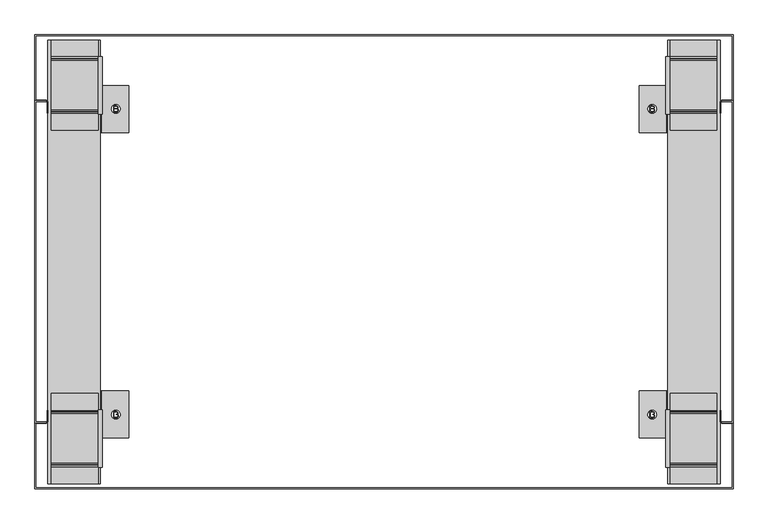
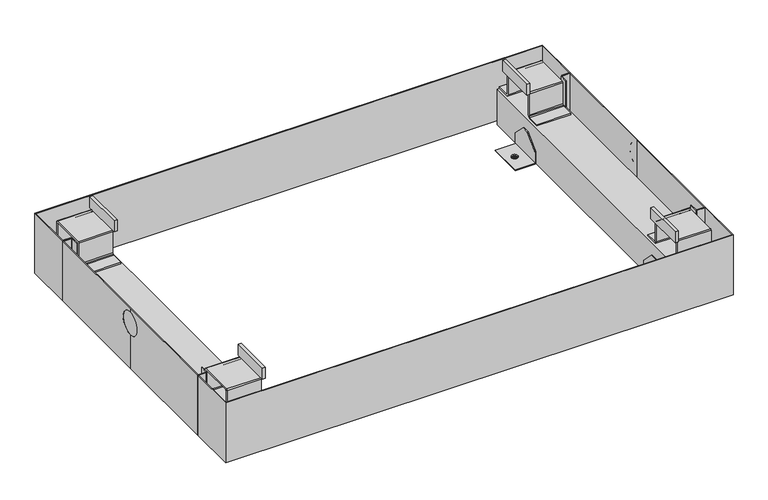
"""IFC4 building model written with IfcOpenShell, lengths in millimetres: proxy geometry, 11783010_EU_APWM026_IG : 59510026_EU_11783010_APWM026_IG."""

from ifc_helpers import new_model, si_unit, point, frame, frame_2d, origin, origin_with_axes, place, context, project, spatial, polyline, circle_curve, trimmed, segment, composite_curve, outline, extrude, source, transform, mapped, element, save
from ifc_brep_helpers import plane_surface, revolved_surface, advanced_brep


def specialty_equipment_adf1b3c8(model_context):
    return source(origin(), model_context, "Body", "SolidModel", [
        advanced_brep(
        [(-668.5, -126.5, 171.8001281), (-668.5, -435.0, 171.8001281), (-668.5, -743.5, 171.8001281), (-646.6000023, -743.5, 171.8001281), (-646.6000023, -742.0, 171.8001281), (-667.0, -742.0, 171.8001281), (-667.0, -435.0, 171.8001281), (-667.0, -128.0, 171.8001281), (-646.6000023, -128.0, 171.8001281), (-646.6000023, -126.5, 171.8001281), (-668.5, -126.5, 5.0069558), (-646.6000023, -126.5, 5.0069558), (-646.6000023, -128.0, 5.0069558), (-667.0, -128.0, 5.0069558), (-667.0, -435.0, 5.0069558), (-667.0, -742.0, 5.0069558), (-646.6000023, -742.0, 5.0069558), (-646.6000023, -743.5, 5.0069558), (-668.5, -743.5, 5.0069558), (-668.5, -435.0, 5.0069558), (-668.5, -435.0, 97.7016111), (-668.5, -402.9849473, 129.7166638), (-668.5, -435.0, 161.7317164), (-668.5, -467.0150527, 129.7166638), (-667.4619558, -467.0150527, 129.7166638), (-667.4619558, -402.9849473, 129.7166638)],
        [
            (0, 1),
            (1, 2),
            (2, 3),
            (3, 4),
            (4, 5),
            (5, 6),
            (6, 7),
            (7, 8),
            (8, 9),
            (9, 0),
            (10, 11),
            (11, 12),
            (12, 13),
            (13, 14),
            (14, 15),
            (15, 16),
            (16, 17),
            (17, 18),
            (18, 19),
            (19, 10),
            (0, 10),
            (19, 20),
            (20, 21, circle_curve(frame((-668.5, -435.0, 129.7166638), z_axis=(1.0, 0.0, 0.0), x_axis=(0.0, 1.0, 0.0)), 32.0150527)),
            (21, 22, circle_curve(frame((-668.5, -435.0, 129.7166638), z_axis=(1.0, 0.0, 0.0), x_axis=(0.0, 1.0, 0.0)), 32.0150527)),
            (22, 1),
            (22, 23, circle_curve(frame((-668.5, -435.0, 129.7166638), z_axis=(1.0, 0.0, 0.0), x_axis=(0.0, 1.0, 0.0)), 32.0150527)),
            (23, 20, circle_curve(frame((-668.5, -435.0, 129.7166638), z_axis=(1.0, 0.0, 0.0), x_axis=(0.0, 1.0, 0.0)), 32.0150527)),
            (18, 2),
            (17, 3),
            (16, 4),
            (15, 5),
            (14, 6),
            (13, 7),
            (12, 8),
            (11, 9),
            (24, 25, circle_curve(frame((-667.4619558, -435.0, 129.7166638), z_axis=(-1.0, 0.0, 0.0), x_axis=(0.0, 1.0, 0.0)), 32.0150527)),
            (25, 24, circle_curve(frame((-667.4619558, -435.0, 129.7166638), z_axis=(-1.0, 0.0, 0.0), x_axis=(0.0, 1.0, 0.0)), 32.0150527)),
            (25, 21),
            (23, 24),
        ],
        [
            plane_surface(frame((-668.5, -126.5, 171.8001281), z_axis=(0.0, 0.0, 1.0), x_axis=(0.0, -1.0, 0.0))),
            plane_surface(frame((-668.5, -126.5, 5.0069558), z_axis=(0.0, 0.0, -1.0), x_axis=(0.0, 1.0, 0.0))),
            plane_surface(frame((-668.5, -126.5, 171.8001281), z_axis=(-1.0, 0.0, 0.0), x_axis=(0.0, 0.0, -1.0))),
            plane_surface(frame((-668.5, -435.0, 171.8001281), z_axis=(-1.0, 0.0, 0.0), x_axis=(0.0, 0.0, -1.0))),
            plane_surface(frame((-668.5, -743.5, 171.8001281), z_axis=(0.0, -1.0, 0.0), x_axis=(0.0, 0.0, -1.0))),
            plane_surface(frame((-646.6000023, -743.5, 171.8001281), z_axis=(1.0, 0.0, 0.0), x_axis=(0.0, 0.0, -1.0))),
            plane_surface(frame((-646.6000023, -742.0, 171.8001281), z_axis=(0.0, 1.0, 0.0), x_axis=(0.0, 0.0, -1.0))),
            plane_surface(frame((-667.0, -742.0, 171.8001281), z_axis=(1.0, 0.0, 0.0), x_axis=(0.0, 0.0, -1.0))),
            plane_surface(frame((-667.0, -435.0, 171.8001281), z_axis=(1.0, 0.0, 0.0), x_axis=(0.0, 0.0, -1.0))),
            plane_surface(frame((-667.0, -128.0, 171.8001281), z_axis=(0.0, -1.0, 0.0), x_axis=(0.0, 0.0, -1.0))),
            plane_surface(frame((-646.6000023, -128.0, 171.8001281), z_axis=(1.0, 0.0, 0.0), x_axis=(0.0, 0.0, -1.0))),
            plane_surface(frame((-646.6000023, -126.5, 171.8001281), z_axis=(0.0, 1.0, 0.0), x_axis=(0.0, 0.0, -1.0))),
            plane_surface(frame((-667.4619558, -402.9849473, 129.7166638), z_axis=(-1.0, 0.0, 0.0), x_axis=(0.0, 0.0, 1.0))),
            revolved_surface(polyline([(-668.5, -402.9849473, 129.7166638), (-667.4619558, -402.9849473, 129.7166638)]), (-667.4619558, -435.0, 129.7166638), (-1.0, 0.0, 0.0)),
        ],
        [
            (0, [[1, 2, 3, 4, 5, 6, 7, 8, 9, 10]]),
            (1, [[11, 12, 13, 14, 15, 16, 17, 18, 19, 20]]),
            (2, [[-1, 21, -20, 22, 23, 24, 25]]),
            (3, [[-2, -25, 26, 27, -22, -19, 28]]),
            (4, [[-3, -28, -18, 29]]),
            (5, [[-4, -29, -17, 30]]),
            (6, [[-5, -30, -16, 31]]),
            (7, [[-6, -31, -15, 32]]),
            (8, [[-7, -32, -14, 33]]),
            (9, [[-8, -33, -13, 34]]),
            (10, [[-9, -34, -12, 35]]),
            (11, [[-10, -35, -11, -21]]),
            (12, [[36, 37]]),
            (13, [[-37, 38, -23, -27, 39]]),
            (13, [[-36, -39, -26, -24, -38]]),
        ],
    ),
        advanced_brep(
        [(668.5, -126.5, 171.8001281), (646.6000023, -126.5, 171.8001281), (646.6000023, -128.0, 171.8001281), (667.0, -128.0, 171.8001281), (667.0, -435.0, 171.8001281), (667.0, -742.0, 171.8001281), (646.6000023, -742.0, 171.8001281), (646.6000023, -743.5, 171.8001281), (668.5, -743.5, 171.8001281), (668.5, -435.0, 171.8001281), (668.5, -126.5, 5.0069558), (668.5, -435.0, 5.0069558), (668.5, -743.5, 5.0069558), (646.6000023, -743.5, 5.0069558), (646.6000023, -742.0, 5.0069558), (667.0, -742.0, 5.0069558), (667.0, -435.0, 5.0069558), (667.0, -128.0, 5.0069558), (646.6000023, -128.0, 5.0069558), (646.6000023, -126.5, 5.0069558), (668.5, -435.0, 161.7317164), (668.5, -402.9849473, 129.7166638), (668.5, -435.0, 97.7016111), (668.5, -467.0150527, 129.7166638), (667.4619558, -467.0150527, 129.7166638), (667.4619558, -402.9849473, 129.7166638)],
        [
            (0, 1),
            (1, 2),
            (2, 3),
            (3, 4),
            (4, 5),
            (5, 6),
            (6, 7),
            (7, 8),
            (8, 9),
            (9, 0),
            (10, 11),
            (11, 12),
            (12, 13),
            (13, 14),
            (14, 15),
            (15, 16),
            (16, 17),
            (17, 18),
            (18, 19),
            (19, 10),
            (9, 20),
            (20, 21, circle_curve(frame((668.5, -435.0, 129.7166638), z_axis=(-1.0, 0.0, 0.0), x_axis=(0.0, 1.0, 0.0)), 32.0150527)),
            (21, 22, circle_curve(frame((668.5, -435.0, 129.7166638), z_axis=(-1.0, 0.0, 0.0), x_axis=(0.0, 1.0, 0.0)), 32.0150527)),
            (22, 11),
            (10, 0),
            (8, 12),
            (22, 23, circle_curve(frame((668.5, -435.0, 129.7166638), z_axis=(-1.0, 0.0, 0.0), x_axis=(0.0, 1.0, 0.0)), 32.0150527)),
            (23, 20, circle_curve(frame((668.5, -435.0, 129.7166638), z_axis=(-1.0, 0.0, 0.0), x_axis=(0.0, 1.0, 0.0)), 32.0150527)),
            (7, 13),
            (6, 14),
            (5, 15),
            (4, 16),
            (3, 17),
            (2, 18),
            (1, 19),
            (24, 25, circle_curve(frame((667.4619558, -435.0, 129.7166638), z_axis=(1.0, 0.0, 0.0), x_axis=(0.0, 1.0, 0.0)), 32.0150527)),
            (25, 24, circle_curve(frame((667.4619558, -435.0, 129.7166638), z_axis=(1.0, 0.0, 0.0), x_axis=(0.0, 1.0, 0.0)), 32.0150527)),
            (24, 23),
            (21, 25),
        ],
        [
            plane_surface(frame((646.6000023, -126.5, 171.8001281), z_axis=(0.0, 0.0, 1.0), x_axis=(-1.0, 0.0, 0.0))),
            plane_surface(frame((646.6000023, -126.5, 5.0069558), z_axis=(0.0, 0.0, -1.0), x_axis=(1.0, 0.0, 0.0))),
            plane_surface(frame((668.5, -435.0, 171.8001281), z_axis=(1.0, 0.0, 0.0), x_axis=(0.0, 0.0, -1.0))),
            plane_surface(frame((668.5, -743.5, 171.8001281), z_axis=(1.0, 0.0, 0.0), x_axis=(0.0, 0.0, -1.0))),
            plane_surface(frame((646.6000023, -743.5, 171.8001281), z_axis=(0.0, -1.0, 0.0), x_axis=(0.0, 0.0, -1.0))),
            plane_surface(frame((646.6000023, -742.0, 171.8001281), z_axis=(-1.0, 0.0, 0.0), x_axis=(0.0, 0.0, -1.0))),
            plane_surface(frame((667.0, -742.0, 171.8001281), z_axis=(0.0, 1.0, 0.0), x_axis=(0.0, 0.0, -1.0))),
            plane_surface(frame((667.0, -435.0, 171.8001281), z_axis=(-1.0, 0.0, 0.0), x_axis=(0.0, 0.0, -1.0))),
            plane_surface(frame((667.0, -128.0, 171.8001281), z_axis=(-1.0, 0.0, 0.0), x_axis=(0.0, 0.0, -1.0))),
            plane_surface(frame((646.6000023, -128.0, 171.8001281), z_axis=(0.0, -1.0, 0.0), x_axis=(0.0, 0.0, -1.0))),
            plane_surface(frame((646.6000023, -126.5, 171.8001281), z_axis=(-1.0, 0.0, 0.0), x_axis=(0.0, 0.0, -1.0))),
            plane_surface(frame((668.5, -126.5, 171.8001281), z_axis=(0.0, 1.0, 0.0), x_axis=(0.0, 0.0, -1.0))),
            plane_surface(frame((667.4619558, -402.9849473, 129.7166638), z_axis=(1.0, 0.0, 0.0), x_axis=(0.0, 0.0, -1.0))),
            revolved_surface(polyline([(668.5, -402.9849473, 129.7166638), (667.4619558, -402.9849473, 129.7166638)]), (667.4619558, -435.0, 129.7166638), (1.0, 0.0, 0.0)),
        ],
        [
            (0, [[1, 2, 3, 4, 5, 6, 7, 8, 9, 10]]),
            (1, [[11, 12, 13, 14, 15, 16, 17, 18, 19, 20]]),
            (2, [[-10, 21, 22, 23, 24, -11, 25]]),
            (3, [[-9, 26, -12, -24, 27, 28, -21]]),
            (4, [[-8, 29, -13, -26]]),
            (5, [[-7, 30, -14, -29]]),
            (6, [[-6, 31, -15, -30]]),
            (7, [[-5, 32, -16, -31]]),
            (8, [[-4, 33, -17, -32]]),
            (9, [[-3, 34, -18, -33]]),
            (10, [[-2, 35, -19, -34]]),
            (11, [[-1, -25, -20, -35]]),
            (12, [[36, 37]]),
            (13, [[-36, 38, -27, -23, 39]]),
            (13, [[-37, -39, -22, -28, -38]]),
        ],
    ),
        extrude(outline(polyline([(543.5478439, -682.1946793), (543.5478439, -772.5500183), (488.5, -772.5500183), (488.5, -682.1946793), (543.5478439, -682.1946793)]), holes=[composite_curve([segment(trimmed(circle_curve(frame_2d((513.5, -728.0)), 8.4700909), [point((505.0299091, -728.0))], [point((521.9700909, -728.0))], True, "CARTESIAN"), True, "CONTINUOUS"), segment(trimmed(circle_curve(frame_2d((513.5, -728.0)), 8.4700909), [point((521.9700909, -728.0))], [point((505.0299091, -728.0))], True, "CARTESIAN"), True, "CONTINUOUS")], self_intersect=False)]), origin_with_axes(), (0.0, 0.0, 1.0), 2.452137),
        extrude(outline(polyline([(543.5478439, -187.8053207), (488.5, -187.8053207), (488.5, -97.4499817), (543.5478439, -97.4499817), (543.5478439, -187.8053207)]), holes=[composite_curve([segment(trimmed(circle_curve(frame_2d((513.5, -142.0)), 8.4700909), [point((521.9700909, -142.0))], [point((505.0299091, -142.0))], True, "CARTESIAN"), True, "CONTINUOUS"), segment(trimmed(circle_curve(frame_2d((513.5, -142.0)), 8.4700909), [point((505.0299091, -142.0))], [point((521.9700909, -142.0))], True, "CARTESIAN"), True, "CONTINUOUS")], self_intersect=False)]), origin_with_axes(), (0.0, 0.0, 1.0), 2.452137),
        extrude(outline(polyline([(547.5, -151.5), (539.5478439, -151.5), (539.5478439, -41.5), (547.5, -41.5), (547.5, -151.5)])), frame((0.0, 0.0, 169.8569783), z_axis=(0.0, 0.0, 1.0), x_axis=(1.0, 0.0, 0.0)), (0.0, 0.0, 1.0), 31.1430217),
        extrude(outline(polyline([(539.5478439, -718.5), (547.5, -718.5), (547.5, -828.5), (539.5478439, -828.5), (539.5478439, -718.5)])), frame((0.0, 0.0, 169.8569783), z_axis=(0.0, 0.0, 1.0), x_axis=(1.0, 0.0, 0.0)), (0.0, 0.0, 1.0), 31.1430217),
        extrude(outline(polyline([(-547.5, -718.5), (-539.5478439, -718.5), (-539.5478439, -828.5), (-547.5, -828.5), (-547.5, -718.5)])), frame((0.0, 0.0, 169.8569783), z_axis=(0.0, 0.0, 1.0), x_axis=(1.0, 0.0, 0.0)), (0.0, 0.0, 1.0), 31.1430217),
        extrude(outline(polyline([(-539.5478439, -151.5), (-547.5, -151.5), (-547.5, -41.5), (-539.5478439, -41.5), (-539.5478439, -151.5)])), frame((0.0, 0.0, 169.8569783), z_axis=(0.0, 0.0, 1.0), x_axis=(1.0, 0.0, 0.0)), (0.0, 0.0, 1.0), 31.1430217),
        extrude(outline(composite_curve([segment(polyline([(-827.5, 100.0), (-860.0, 100.0), (-860.0, 104.0), (-828.2053079, 104.0), (-824.5823269, 105.3186573), (-823.1075028, 108.4814277), (-823.1075028, 166.8569783)]), True, "CONTINUOUS"), segment(trimmed(circle_curve(frame_2d((-820.1075028, 166.8569783)), 3.0), [point((-823.1075028, 166.8569783))], [point((-820.1075028, 169.8569783))], False, "CARTESIAN"), True, "CONTINUOUS"), segment(polyline([(-820.1075028, 169.8569783), (-726.3723488, 169.8569783)]), True, "CONTINUOUS"), segment(trimmed(circle_curve(frame_2d((-726.3723488, 166.8569783)), 3.0), [point((-726.3723488, 169.8569783))], [point((-723.3723488, 166.8569783))], False, "CARTESIAN"), True, "CONTINUOUS"), segment(polyline([(-723.3723488, 166.8569783), (-723.3723488, 108.3971605), (-722.2811907, 105.3992283), (-719.2805359, 104.0), (-687.6000061, 104.0), (-687.6000061, 100.0), (-720.1673145, 100.0), (-725.4732837, 102.4742141), (-727.3723488, 107.6918526), (-727.3723488, 162.8569783)]), True, "CONTINUOUS"), segment(trimmed(circle_curve(frame_2d((-730.3723488, 162.8569783)), 3.0), [point((-727.3723488, 162.8569783))], [point((-730.3723488, 165.8569783))], True, "CARTESIAN"), True, "CONTINUOUS"), segment(polyline([(-730.3723488, 165.8569783), (-816.1075028, 165.8569783)]), True, "CONTINUOUS"), segment(trimmed(circle_curve(frame_2d((-816.1075028, 162.8569783)), 3.0), [point((-816.1075028, 165.8569783))], [point((-819.1075028, 162.8569783))], True, "CARTESIAN"), True, "CONTINUOUS"), segment(polyline([(-819.1075028, 162.8569783), (-819.1075028, 107.594649), (-821.6573126, 102.1265643), (-827.5, 100.0)]), True, "CONTINUOUS")], self_intersect=False)), frame((548.5, 0.0, 0.0), z_axis=(1.0, 0.0, 0.0), x_axis=(0.0, 1.0, 0.0)), (0.0, 0.0, 1.0), 89.0),
        extrude(outline(composite_curve([segment(polyline([(-42.5, 100.0), (-48.3426874, 102.1265643), (-50.8924972, 107.594649), (-50.8924972, 162.8569783)]), True, "CONTINUOUS"), segment(trimmed(circle_curve(frame_2d((-53.8924972, 162.8569783)), 3.0), [point((-50.8924972, 162.8569783))], [point((-53.8924972, 165.8569783))], True, "CARTESIAN"), True, "CONTINUOUS"), segment(polyline([(-53.8924972, 165.8569783), (-139.6276512, 165.8569783)]), True, "CONTINUOUS"), segment(trimmed(circle_curve(frame_2d((-139.6276512, 162.8569783)), 3.0), [point((-139.6276512, 165.8569783))], [point((-142.6276512, 162.8569783))], True, "CARTESIAN"), True, "CONTINUOUS"), segment(polyline([(-142.6276512, 162.8569783), (-142.6276512, 107.6918526), (-144.5267163, 102.4742141), (-149.8326855, 100.0), (-182.3999939, 100.0), (-182.3999939, 104.0), (-150.7194641, 104.0), (-147.7188093, 105.3992283), (-146.6276512, 108.3971605), (-146.6276512, 166.8569783)]), True, "CONTINUOUS"), segment(trimmed(circle_curve(frame_2d((-143.6276512, 166.8569783)), 3.0), [point((-146.6276512, 166.8569783))], [point((-143.6276512, 169.8569783))], False, "CARTESIAN"), True, "CONTINUOUS"), segment(polyline([(-143.6276512, 169.8569783), (-49.8924972, 169.8569783)]), True, "CONTINUOUS"), segment(trimmed(circle_curve(frame_2d((-49.8924972, 166.8569783)), 3.0), [point((-49.8924972, 169.8569783))], [point((-46.8924972, 166.8569783))], False, "CARTESIAN"), True, "CONTINUOUS"), segment(polyline([(-46.8924972, 166.8569783), (-46.8924972, 108.4814277), (-45.4176731, 105.3186573), (-41.7946921, 104.0), (-10.0, 104.0), (-10.0, 100.0), (-42.5, 100.0)]), True, "CONTINUOUS")], self_intersect=False)), frame((548.5, 0.0, 0.0), z_axis=(1.0, 0.0, 0.0), x_axis=(0.0, 1.0, 0.0)), (0.0, 0.0, 1.0), 89.0),
        extrude(outline(composite_curve([segment(polyline([(-42.5, 100.0), (-48.3426874, 102.1265643), (-50.8924972, 107.594649), (-50.8924972, 162.8569783)]), True, "CONTINUOUS"), segment(trimmed(circle_curve(frame_2d((-53.8924972, 162.8569783)), 3.0), [point((-50.8924972, 162.8569783))], [point((-53.8924972, 165.8569783))], True, "CARTESIAN"), True, "CONTINUOUS"), segment(polyline([(-53.8924972, 165.8569783), (-139.6276512, 165.8569783)]), True, "CONTINUOUS"), segment(trimmed(circle_curve(frame_2d((-139.6276512, 162.8569783)), 3.0), [point((-139.6276512, 165.8569783))], [point((-142.6276512, 162.8569783))], True, "CARTESIAN"), True, "CONTINUOUS"), segment(polyline([(-142.6276512, 162.8569783), (-142.6276512, 107.6918526), (-144.5267163, 102.4742141), (-149.8326855, 100.0), (-182.3999939, 100.0), (-182.3999939, 104.0), (-150.7194641, 104.0), (-147.7188093, 105.3992283), (-146.6276512, 108.3971605), (-146.6276512, 166.8569783)]), True, "CONTINUOUS"), segment(trimmed(circle_curve(frame_2d((-143.6276512, 166.8569783)), 3.0), [point((-146.6276512, 166.8569783))], [point((-143.6276512, 169.8569783))], False, "CARTESIAN"), True, "CONTINUOUS"), segment(polyline([(-143.6276512, 169.8569783), (-49.8924972, 169.8569783)]), True, "CONTINUOUS"), segment(trimmed(circle_curve(frame_2d((-49.8924972, 166.8569783)), 3.0), [point((-49.8924972, 169.8569783))], [point((-46.8924972, 166.8569783))], False, "CARTESIAN"), True, "CONTINUOUS"), segment(polyline([(-46.8924972, 166.8569783), (-46.8924972, 108.4814277), (-45.4176731, 105.3186573), (-41.7946921, 104.0), (-10.0, 104.0), (-10.0, 100.0), (-42.5, 100.0)]), True, "CONTINUOUS")], self_intersect=False)), frame((-637.5478439, 0.0, 0.0), z_axis=(1.0, 0.0, 0.0), x_axis=(0.0, 1.0, 0.0)), (0.0, 0.0, 1.0), 90.0478439),
        extrude(outline(composite_curve([segment(polyline([(-827.5, 100.0), (-860.0, 100.0), (-860.0, 104.0), (-828.2053079, 104.0), (-824.5823269, 105.3186573), (-823.1075028, 108.4814277), (-823.1075028, 166.8569783)]), True, "CONTINUOUS"), segment(trimmed(circle_curve(frame_2d((-820.1075028, 166.8569783)), 3.0), [point((-823.1075028, 166.8569783))], [point((-820.1075028, 169.8569783))], False, "CARTESIAN"), True, "CONTINUOUS"), segment(polyline([(-820.1075028, 169.8569783), (-726.3723488, 169.8569783)]), True, "CONTINUOUS"), segment(trimmed(circle_curve(frame_2d((-726.3723488, 166.8569783)), 3.0), [point((-726.3723488, 169.8569783))], [point((-723.3723488, 166.8569783))], False, "CARTESIAN"), True, "CONTINUOUS"), segment(polyline([(-723.3723488, 166.8569783), (-723.3723488, 108.3971605), (-722.2811907, 105.3992283), (-719.2805359, 104.0), (-687.6000061, 104.0), (-687.6000061, 100.0), (-720.1673145, 100.0), (-725.4732837, 102.4742141), (-727.3723488, 107.6918526), (-727.3723488, 162.8569783)]), True, "CONTINUOUS"), segment(trimmed(circle_curve(frame_2d((-730.3723488, 162.8569783)), 3.0), [point((-727.3723488, 162.8569783))], [point((-730.3723488, 165.8569783))], True, "CARTESIAN"), True, "CONTINUOUS"), segment(polyline([(-730.3723488, 165.8569783), (-816.1075028, 165.8569783)]), True, "CONTINUOUS"), segment(trimmed(circle_curve(frame_2d((-816.1075028, 162.8569783)), 3.0), [point((-816.1075028, 165.8569783))], [point((-819.1075028, 162.8569783))], True, "CARTESIAN"), True, "CONTINUOUS"), segment(polyline([(-819.1075028, 162.8569783), (-819.1075028, 107.594649), (-821.6573126, 102.1265643), (-827.5, 100.0)]), True, "CONTINUOUS")], self_intersect=False)), frame((-637.5478439, 0.0, 0.0), z_axis=(1.0, 0.0, 0.0), x_axis=(0.0, 1.0, 0.0)), (0.0, 0.0, 1.0), 90.0478439),
        extrude(outline(polyline([(-543.5478439, -187.8053207), (-543.5478439, -97.4499817), (-488.5, -97.4499817), (-488.5, -187.8053207), (-543.5478439, -187.8053207)]), holes=[composite_curve([segment(trimmed(circle_curve(frame_2d((-513.5, -142.0)), 8.4700909), [point((-505.0299091, -142.0))], [point((-521.9700909, -142.0))], True, "CARTESIAN"), True, "CONTINUOUS"), segment(trimmed(circle_curve(frame_2d((-513.5, -142.0)), 8.4700909), [point((-521.9700909, -142.0))], [point((-505.0299091, -142.0))], True, "CARTESIAN"), True, "CONTINUOUS")], self_intersect=False)]), origin_with_axes(), (0.0, 0.0, 1.0), 2.452137),
        extrude(outline(polyline([(-543.5478439, -682.1946793), (-488.5, -682.1946793), (-488.5, -772.5500183), (-543.5478439, -772.5500183), (-543.5478439, -682.1946793)]), holes=[composite_curve([segment(trimmed(circle_curve(frame_2d((-513.5, -728.0)), 8.4700909), [point((-521.9700909, -728.0))], [point((-505.0299091, -728.0))], True, "CARTESIAN"), True, "CONTINUOUS"), segment(trimmed(circle_curve(frame_2d((-513.5, -728.0)), 8.4700909), [point((-505.0299091, -728.0))], [point((-521.9700909, -728.0))], True, "CARTESIAN"), True, "CONTINUOUS")], self_intersect=False)]), origin_with_axes(), (0.0, 0.0, 1.0), 2.452137),
        extrude(outline(polyline([(-772.5500183, 31.9500008), (-737.5500183, 66.9500008), (-717.5500183, 66.9500008), (-682.1946793, 31.5946617), (-682.1946793, 0.0), (-772.5500183, 0.0), (-772.5500183, 31.9500008)])), frame((541.0478439, 0.0, 0.0), z_axis=(1.0, 0.0, 0.0), x_axis=(0.0, 1.0, 0.0)), (0.0, 0.0, 1.0), 2.5),
        extrude(outline(polyline([(-97.4499817, 31.9500008), (-97.4499817, 0.0), (-187.8053207, 0.0), (-187.8053207, 31.5946617), (-152.4499817, 66.9500008), (-132.4499817, 66.9500008), (-97.4499817, 31.9500008)])), frame((541.0478439, 0.0, 0.0), z_axis=(1.0, 0.0, 0.0), x_axis=(0.0, 1.0, 0.0)), (0.0, 0.0, 1.0), 2.5),
        extrude(outline(polyline([(-97.4499817, 31.9500008), (-97.4499817, 0.0), (-187.8053207, 0.0), (-187.8053207, 31.5946617), (-152.4499817, 66.9500008), (-132.4499817, 66.9500008), (-97.4499817, 31.9500008)])), frame((-543.5478439, 0.0, 0.0), z_axis=(1.0, 0.0, 0.0), x_axis=(0.0, 1.0, 0.0)), (0.0, 0.0, 1.0), 2.5),
        extrude(outline(polyline([(-772.5500183, 31.9500008), (-737.5500183, 66.9500008), (-717.5500183, 66.9500008), (-682.1946793, 31.5946617), (-682.1946793, 0.0), (-772.5500183, 0.0), (-772.5500183, 31.9500008)])), frame((-543.5478439, 0.0, 0.0), z_axis=(1.0, 0.0, 0.0), x_axis=(0.0, 1.0, 0.0)), (0.0, 0.0, 1.0), 2.5),
        extrude(outline(polyline([(543.5478439, -10.0), (643.5478439, -10.0), (643.5478439, -860.0), (543.5478439, -860.0), (543.5478439, -10.0)])), origin_with_axes(), (0.0, 0.0, 1.0), 100.0),
        extrude(outline(polyline([(-543.5478439, -10.0), (-543.5478439, -860.0), (-643.5478439, -860.0), (-643.5478439, -10.0), (-543.5478439, -10.0)])), origin_with_axes(), (0.0, 0.0, 1.0), 100.0),
        extrude(outline(polyline([(668.5, 0.0), (668.5, -126.5), (646.5952676, -126.5), (645.0956955, -128.0999756), (645.0956955, -150.0), (643.5956955, -150.0), (643.5956955, -128.0999756), (646.6956711, -125.0), (667.0, -125.0), (667.0, -1.5), (-667.0, -1.5), (-667.0, -125.0), (-646.6956711, -125.0), (-643.5956955, -128.0999756), (-643.5956955, -150.0), (-645.0956955, -150.0), (-645.0956955, -128.0999756), (-646.5952676, -126.5), (-668.5, -126.5), (-668.5, 0.0), (668.5, 0.0)])), frame((0.0, 0.0, 5.0069558), z_axis=(0.0, 0.0, 1.0), x_axis=(1.0, 0.0, 0.0)), (0.0, 0.0, 1.0), 166.7931723),
        extrude(outline(polyline([(668.5, -870.0), (-668.5, -870.0), (-668.5, -743.5), (-646.5952676, -743.5), (-645.0956955, -741.9000244), (-645.0956955, -720.0), (-643.5956955, -720.0), (-643.5956955, -741.9000244), (-646.6956711, -745.0), (-667.0, -745.0), (-667.0, -868.5), (667.0, -868.5), (667.0, -745.0), (646.6956711, -745.0), (643.5956955, -741.9000244), (643.5956955, -720.0), (645.0956955, -720.0), (645.0956955, -741.9000244), (646.5952676, -743.5), (668.5, -743.5), (668.5, -870.0)])), frame((0.0, 0.0, 5.0069558), z_axis=(0.0, 0.0, 1.0), x_axis=(1.0, 0.0, 0.0)), (0.0, 0.0, 1.0), 166.7931723),
        extrude(outline(polyline([(-517.7380006, -734.0547572), (-517.7380006, -722.0), (-513.1380041, -722.0), (-510.8850948, -722.3546382), (-509.5548335, -723.4450405), (-509.0736438, -724.9872018), (-509.478314, -726.3954541), (-510.7011538, -727.4623119), (-509.216382, -728.5865592), (-508.6969327, -730.4612859), (-509.0515709, -732.0814382), (-509.9300731, -733.2351161), (-511.2412045, -733.8472718), (-513.1733208, -734.0547572), (-517.7380006, -734.0547572)]), holes=[polyline([(-516.2311559, -726.8972451), (-513.4793986, -726.8972451), (-511.8724901, -726.7677507), (-510.9056962, -726.2100416), (-510.5804885, -725.2285324), (-510.8836233, -724.2455517), (-511.7518248, -723.6642981), (-513.6883556, -723.5068447), (-516.2311559, -723.5068447), (-516.2311559, -726.8972451)]), polyline([(-516.2311559, -732.5479126), (-513.1409472, -732.5479126), (-512.0225859, -732.4890514), (-511.0763934, -732.1609007), (-510.4495225, -731.4913555), (-510.2037773, -730.4760012), (-510.4921968, -729.3046649), (-511.4266171, -728.6056891), (-513.2881, -728.4040898), (-516.2311559, -728.4040898), (-516.2311559, -732.5479126)])]), frame((0.0, 0.0, -1.0), z_axis=(0.0, 0.0, 1.0), x_axis=(1.0, 0.0, 0.0)), (0.0, 0.0, 1.0), 1.0),
        extrude(outline(polyline([(509.2619994, -734.0547572), (509.2619994, -722.0), (513.8619959, -722.0), (516.1149052, -722.3546382), (517.4451665, -723.4450405), (517.9263562, -724.9872018), (517.521686, -726.3954541), (516.2988462, -727.4623119), (517.783618, -728.5865592), (518.3030673, -730.4612859), (517.9484291, -732.0814382), (517.0699269, -733.2351161), (515.7587955, -733.8472718), (513.8266792, -734.0547572), (509.2619994, -734.0547572)]), holes=[polyline([(510.7688441, -726.8972451), (513.5206014, -726.8972451), (515.1275099, -726.7677507), (516.0943038, -726.2100416), (516.4195115, -725.2285324), (516.1163767, -724.2455517), (515.2481752, -723.6642981), (513.3116444, -723.5068447), (510.7688441, -723.5068447), (510.7688441, -726.8972451)]), polyline([(510.7688441, -732.5479126), (513.8590528, -732.5479126), (514.9774141, -732.4890514), (515.9236066, -732.1609007), (516.5504775, -731.4913555), (516.7962227, -730.4760012), (516.5078032, -729.3046649), (515.5733829, -728.6056891), (513.7119, -728.4040898), (510.7688441, -728.4040898), (510.7688441, -732.5479126)])]), frame((0.0, 0.0, -1.0), z_axis=(0.0, 0.0, 1.0), x_axis=(1.0, 0.0, 0.0)), (0.0, 0.0, 1.0), 1.0),
        extrude(outline(polyline([(509.2619994, -148.0), (509.2619994, -135.9452428), (513.8619959, -135.9452428), (516.1149052, -136.299881), (517.4451665, -137.3902833), (517.9263562, -138.9324446), (517.521686, -140.3406969), (516.2988462, -141.4075546), (517.783618, -142.531802), (518.3030673, -144.4065287), (517.9484291, -146.026681), (517.0699269, -147.1803589), (515.7587955, -147.7925146), (513.8266792, -148.0), (509.2619994, -148.0)]), holes=[polyline([(510.7688441, -140.8424879), (513.5206014, -140.8424879), (515.1275099, -140.7129934), (516.0943038, -140.1552843), (516.4195115, -139.1737752), (516.1163767, -138.1907945), (515.2481752, -137.6095409), (513.3116444, -137.4520874), (510.7688441, -137.4520874), (510.7688441, -140.8424879)]), polyline([(510.7688441, -146.4931553), (513.8590528, -146.4931553), (514.9774141, -146.4342942), (515.9236066, -146.1061435), (516.5504775, -145.4365983), (516.7962227, -144.421244), (516.5078032, -143.2499077), (515.5733829, -142.5509319), (513.7119, -142.3493326), (510.7688441, -142.3493326), (510.7688441, -146.4931553)])]), frame((0.0, 0.0, -1.0), z_axis=(0.0, 0.0, 1.0), x_axis=(1.0, 0.0, 0.0)), (0.0, 0.0, 1.0), 1.0),
        extrude(outline(polyline([(-517.7380006, -148.0), (-517.7380006, -135.9452428), (-513.1380041, -135.9452428), (-510.8850948, -136.299881), (-509.5548335, -137.3902833), (-509.0736438, -138.9324446), (-509.478314, -140.3406969), (-510.7011538, -141.4075546), (-509.216382, -142.531802), (-508.6969327, -144.4065287), (-509.0515709, -146.026681), (-509.9300731, -147.1803589), (-511.2412045, -147.7925146), (-513.1733208, -148.0), (-517.7380006, -148.0)]), holes=[polyline([(-516.2311559, -140.8424879), (-513.4793986, -140.8424879), (-511.8724901, -140.7129934), (-510.9056962, -140.1552843), (-510.5804885, -139.1737752), (-510.8836233, -138.1907945), (-511.7518248, -137.6095409), (-513.6883556, -137.4520874), (-516.2311559, -137.4520874), (-516.2311559, -140.8424879)]), polyline([(-516.2311559, -146.4931553), (-513.1409472, -146.4931553), (-512.0225859, -146.4342942), (-511.0763934, -146.1061435), (-510.4495225, -145.4365983), (-510.2037773, -144.421244), (-510.4921968, -143.2499077), (-511.4266171, -142.5509319), (-513.2881, -142.3493326), (-516.2311559, -142.3493326), (-516.2311559, -146.4931553)])]), frame((0.0, 0.0, -1.0), z_axis=(0.0, 0.0, 1.0), x_axis=(1.0, 0.0, 0.0)), (0.0, 0.0, 1.0), 1.0),
    ])


if __name__ == "__main__":
    model = new_model("IFC4")
    model_context = context("Model", 3, world=origin())
    ifc_project = project(units=[si_unit("LENGTHUNIT", "METRE", prefix="MILLI")], contexts=[model_context])
    site = spatial("IfcSite", under=ifc_project)
    building = spatial("IfcBuilding", under=site)
    placement = place(None, origin())
    specialty_equipment_shape = specialty_equipment_adf1b3c8(model_context)
    element("IfcBuildingElementProxy", 1, Name="11783010_EU_APWM026_IG : 59510026_EU_11783010_APWM026_IG", ObjectType="11783010_EU_APWM026_IG : 59510026_EU_11783010_APWM026_IG", at=placement, inside=building, context=model_context, shape_type="MappedRepresentation", body=[
        mapped(specialty_equipment_shape, transform((0.0, 0.0, 0.0), x_axis=(1.0, 0.0, 0.0), y_axis=(0.0, 1.0, 0.0), z_axis=(0.0, 0.0, 1.0))),
    ])
    save(model, "model.ifc")
